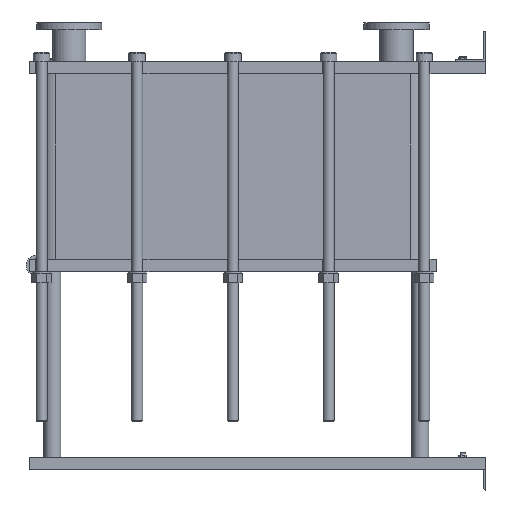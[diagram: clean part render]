
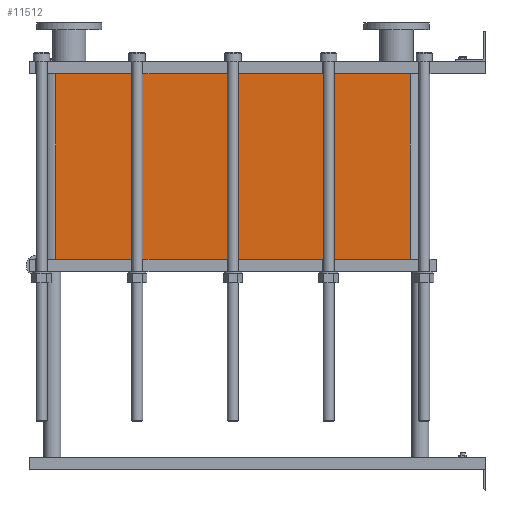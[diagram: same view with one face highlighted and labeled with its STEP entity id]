
A CAD part, left-side view. The second image highlights one B-rep face of the part: STEP entity #11512.
In plain terms, the highlighted planar face has unit normal (-1, 0, 0).
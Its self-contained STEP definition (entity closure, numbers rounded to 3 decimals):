
#1129=LINE('',#23232,#2102);
#1130=LINE('',#23236,#2103);
#1131=LINE('',#23238,#2104);
#1132=LINE('',#23239,#2105);
#2102=VECTOR('',#15887,10.);
#2103=VECTOR('',#15892,10.);
#2104=VECTOR('',#15893,10.);
#2105=VECTOR('',#15894,10.);
#3267=FACE_OUTER_BOUND('',#4093,.T.);
#4093=EDGE_LOOP('',(#10103,#10104,#10105,#10106));
#5642=VERTEX_POINT('',#23229);
#5643=VERTEX_POINT('',#23231);
#5644=VERTEX_POINT('',#23235);
#5645=VERTEX_POINT('',#23237);
#7159=EDGE_CURVE('',#5643,#5642,#1129,.T.);
#7161=EDGE_CURVE('',#5642,#5644,#1130,.T.);
#7162=EDGE_CURVE('',#5645,#5644,#1131,.T.);
#7163=EDGE_CURVE('',#5645,#5643,#1132,.T.);
#10103=ORIENTED_EDGE('',*,*,#7161,.T.);
#10104=ORIENTED_EDGE('',*,*,#7162,.F.);
#10105=ORIENTED_EDGE('',*,*,#7163,.T.);
#10106=ORIENTED_EDGE('',*,*,#7159,.T.);
#10857=PLANE('',#12751);
#11512=ADVANCED_FACE('',(#3267),#10857,.T.);
#12751=AXIS2_PLACEMENT_3D('',#23234,#15890,#15891);
#15887=DIRECTION('',(0.,0.,-1.));
#15890=DIRECTION('center_axis',(-1.,0.,0.));
#15891=DIRECTION('ref_axis',(0.,1.,0.));
#15892=DIRECTION('',(0.,-1.,0.));
#15893=DIRECTION('',(0.,0.,-1.));
#15894=DIRECTION('',(0.,1.,0.));
#23229=CARTESIAN_POINT('',(-200.,1414.,-610.65));
#23231=CARTESIAN_POINT('',(-200.,1414.,0.));
#23232=CARTESIAN_POINT('',(-200.,1414.,0.));
#23234=CARTESIAN_POINT('Origin',(-200.,248.,0.));
#23235=CARTESIAN_POINT('',(-200.,248.,-610.65));
#23236=CARTESIAN_POINT('',(-200.,539.5,-610.65));
#23237=CARTESIAN_POINT('',(-200.,248.,0.));
#23238=CARTESIAN_POINT('',(-200.,248.,0.));
#23239=CARTESIAN_POINT('',(-200.,248.,0.));
